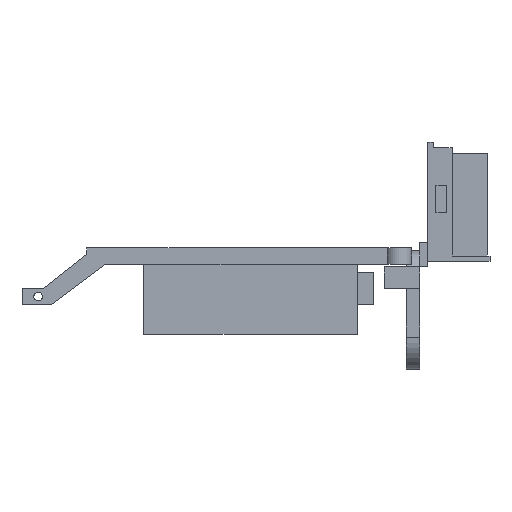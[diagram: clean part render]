
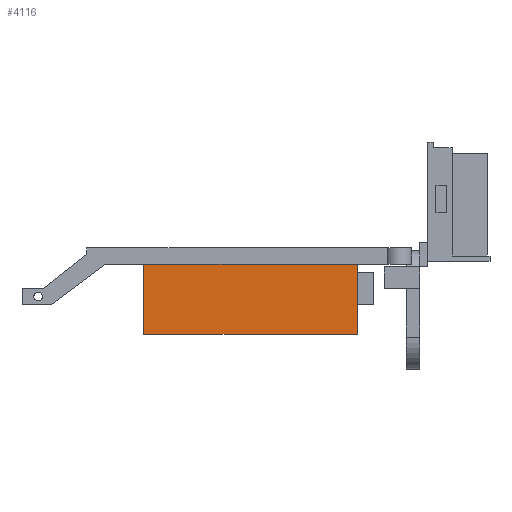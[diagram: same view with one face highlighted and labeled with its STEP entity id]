
A CAD part, left-side view. The second image highlights one B-rep face of the part: STEP entity #4116.
In plain terms, the highlighted planar face has unit normal (-1, 0, 0).
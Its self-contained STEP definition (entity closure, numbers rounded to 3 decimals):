
#4116 = ADVANCED_FACE('',(#4117),#4215,.F.);
#4117 = FACE_BOUND('',#4118,.F.);
#4118 = EDGE_LOOP('',(#4119,#4129,#4137,#4145,#4153,#4161,#4169,#4177,
    #4185,#4193,#4201,#4209));
#4119 = ORIENTED_EDGE('',*,*,#4120,.F.);
#4120 = EDGE_CURVE('',#4121,#4123,#4125,.T.);
#4121 = VERTEX_POINT('',#4122);
#4122 = CARTESIAN_POINT('',(77.,23.,19.));
#4123 = VERTEX_POINT('',#4124);
#4124 = CARTESIAN_POINT('',(77.,40.,19.));
#4125 = LINE('',#4126,#4127);
#4126 = CARTESIAN_POINT('',(77.,23.,19.));
#4127 = VECTOR('',#4128,1.);
#4128 = DIRECTION('',(0.,1.,0.));
#4129 = ORIENTED_EDGE('',*,*,#4130,.F.);
#4130 = EDGE_CURVE('',#4131,#4121,#4133,.T.);
#4131 = VERTEX_POINT('',#4132);
#4132 = CARTESIAN_POINT('',(77.,23.,-9.));
#4133 = LINE('',#4134,#4135);
#4134 = CARTESIAN_POINT('',(77.,23.,-9.));
#4135 = VECTOR('',#4136,1.);
#4136 = DIRECTION('',(0.,0.,1.));
#4137 = ORIENTED_EDGE('',*,*,#4138,.T.);
#4138 = EDGE_CURVE('',#4131,#4139,#4141,.T.);
#4139 = VERTEX_POINT('',#4140);
#4140 = CARTESIAN_POINT('',(77.,102.,-9.));
#4141 = LINE('',#4142,#4143);
#4142 = CARTESIAN_POINT('',(77.,23.,-9.));
#4143 = VECTOR('',#4144,1.);
#4144 = DIRECTION('',(0.,1.,0.));
#4145 = ORIENTED_EDGE('',*,*,#4146,.T.);
#4146 = EDGE_CURVE('',#4139,#4147,#4149,.T.);
#4147 = VERTEX_POINT('',#4148);
#4148 = CARTESIAN_POINT('',(77.,102.,19.));
#4149 = LINE('',#4150,#4151);
#4150 = CARTESIAN_POINT('',(77.,102.,-9.));
#4151 = VECTOR('',#4152,1.);
#4152 = DIRECTION('',(0.,0.,1.));
#4153 = ORIENTED_EDGE('',*,*,#4154,.F.);
#4154 = EDGE_CURVE('',#4155,#4147,#4157,.T.);
#4155 = VERTEX_POINT('',#4156);
#4156 = CARTESIAN_POINT('',(77.,90.,19.));
#4157 = LINE('',#4158,#4159);
#4158 = CARTESIAN_POINT('',(77.,23.,19.));
#4159 = VECTOR('',#4160,1.);
#4160 = DIRECTION('',(0.,1.,0.));
#4161 = ORIENTED_EDGE('',*,*,#4162,.F.);
#4162 = EDGE_CURVE('',#4163,#4155,#4165,.T.);
#4163 = VERTEX_POINT('',#4164);
#4164 = CARTESIAN_POINT('',(77.,90.,17.));
#4165 = LINE('',#4166,#4167);
#4166 = CARTESIAN_POINT('',(77.,90.,4.));
#4167 = VECTOR('',#4168,1.);
#4168 = DIRECTION('',(0.,0.,1.));
#4169 = ORIENTED_EDGE('',*,*,#4170,.T.);
#4170 = EDGE_CURVE('',#4163,#4171,#4173,.T.);
#4171 = VERTEX_POINT('',#4172);
#4172 = CARTESIAN_POINT('',(77.,80.,17.));
#4173 = LINE('',#4174,#4175);
#4174 = CARTESIAN_POINT('',(77.,51.5,17.));
#4175 = VECTOR('',#4176,1.);
#4176 = DIRECTION('',(0.,-1.,0.));
#4177 = ORIENTED_EDGE('',*,*,#4178,.T.);
#4178 = EDGE_CURVE('',#4171,#4179,#4181,.T.);
#4179 = VERTEX_POINT('',#4180);
#4180 = CARTESIAN_POINT('',(77.,80.,19.));
#4181 = LINE('',#4182,#4183);
#4182 = CARTESIAN_POINT('',(77.,80.,4.));
#4183 = VECTOR('',#4184,1.);
#4184 = DIRECTION('',(0.,0.,1.));
#4185 = ORIENTED_EDGE('',*,*,#4186,.F.);
#4186 = EDGE_CURVE('',#4187,#4179,#4189,.T.);
#4187 = VERTEX_POINT('',#4188);
#4188 = CARTESIAN_POINT('',(77.,50.,19.));
#4189 = LINE('',#4190,#4191);
#4190 = CARTESIAN_POINT('',(77.,23.,19.));
#4191 = VECTOR('',#4192,1.);
#4192 = DIRECTION('',(0.,1.,0.));
#4193 = ORIENTED_EDGE('',*,*,#4194,.F.);
#4194 = EDGE_CURVE('',#4195,#4187,#4197,.T.);
#4195 = VERTEX_POINT('',#4196);
#4196 = CARTESIAN_POINT('',(77.,50.,17.));
#4197 = LINE('',#4198,#4199);
#4198 = CARTESIAN_POINT('',(77.,50.,4.));
#4199 = VECTOR('',#4200,1.);
#4200 = DIRECTION('',(0.,0.,1.));
#4201 = ORIENTED_EDGE('',*,*,#4202,.T.);
#4202 = EDGE_CURVE('',#4195,#4203,#4205,.T.);
#4203 = VERTEX_POINT('',#4204);
#4204 = CARTESIAN_POINT('',(77.,40.,17.));
#4205 = LINE('',#4206,#4207);
#4206 = CARTESIAN_POINT('',(77.,31.5,17.));
#4207 = VECTOR('',#4208,1.);
#4208 = DIRECTION('',(0.,-1.,0.));
#4209 = ORIENTED_EDGE('',*,*,#4210,.T.);
#4210 = EDGE_CURVE('',#4203,#4123,#4211,.T.);
#4211 = LINE('',#4212,#4213);
#4212 = CARTESIAN_POINT('',(77.,40.,4.));
#4213 = VECTOR('',#4214,1.);
#4214 = DIRECTION('',(0.,0.,1.));
#4215 = PLANE('',#4216);
#4216 = AXIS2_PLACEMENT_3D('',#4217,#4218,#4219);
#4217 = CARTESIAN_POINT('',(77.,23.,-9.));
#4218 = DIRECTION('',(1.,0.,0.));
#4219 = DIRECTION('',(0.,0.,1.));
